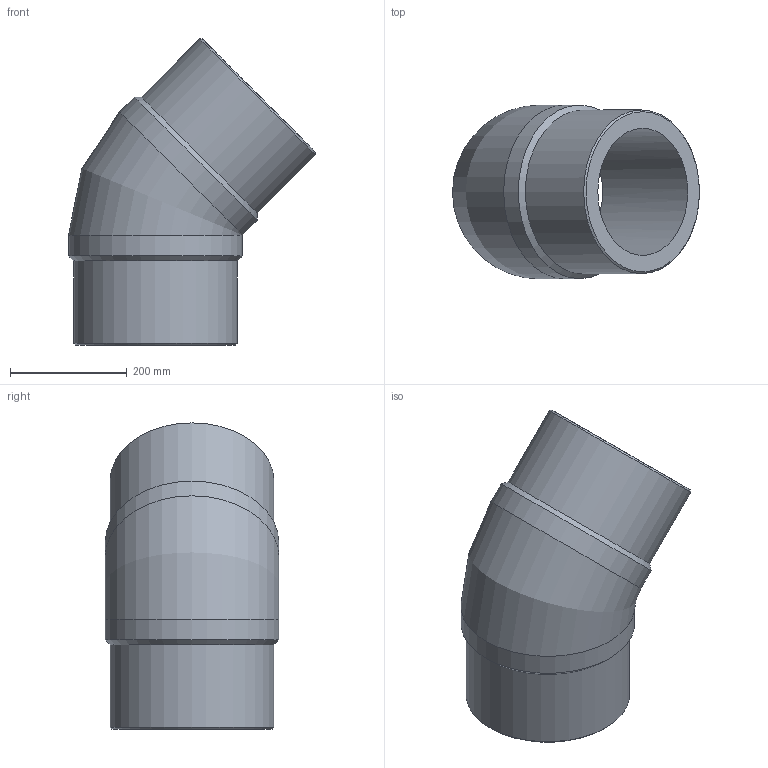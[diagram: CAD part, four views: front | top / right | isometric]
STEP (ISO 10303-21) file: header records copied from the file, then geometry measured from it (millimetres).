
FILE_DESCRIPTION(/* description */ ('Unknown'),/* implementation_level */ '2;1');
FILE_NAME(/* name */ 'G4P280G',/* time_stamp */ '2022-01-17T11:29:02+01:00',/* author */ ('Unknown'),/* organization */ ('Unknown'),/* preprocessor_version */ 'ST-DEVELOPER v18.1',/* originating_system */ 'Solid Edge',/* authorisation */ 'Unknown');
FILE_SCHEMA (('AUTOMOTIVE_DESIGN {1 0 10303 214 3 1 1}'));
Length unit declared in the file: millimetre
Products named in the file (1): G4P280G
Bounding box: 422.15 x 297 x 523.65 mm (x, y, z)
Volume: 13601768.7 mm3; surface area: 834169.8 mm2
Topology: 1 solids, 1 shells, 14 faces, 34 edges, 22 vertices
Faces by surface type: cylinder 6, cone 4, plane 2, torus 2
Full cylindrical faces by diameter (mm): 217.4 x2, 280 x2, 297 x2
Entity records: 368 total; most frequent: CARTESIAN_POINT 68, DIRECTION 60, ORIENTED_EDGE 38, AXIS2_PLACEMENT_3D 30, EDGE_LOOP 27, FACE_BOUND 27, EDGE_CURVE 19, VERTEX_POINT 18
